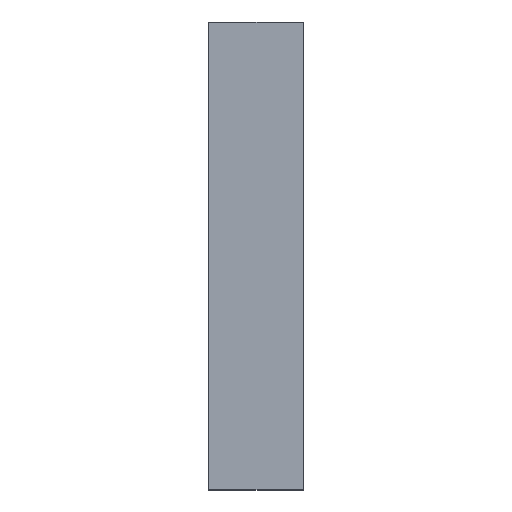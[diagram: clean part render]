
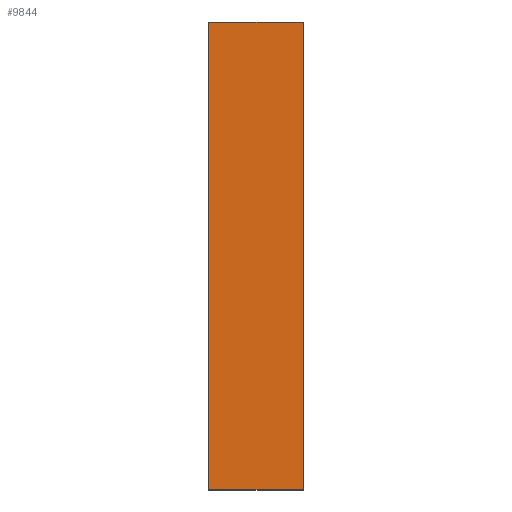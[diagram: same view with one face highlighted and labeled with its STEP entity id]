
A CAD part, left-side view. The second image highlights one B-rep face of the part: STEP entity #9844.
In plain terms, the highlighted planar face has unit normal (-1, 0, 0).
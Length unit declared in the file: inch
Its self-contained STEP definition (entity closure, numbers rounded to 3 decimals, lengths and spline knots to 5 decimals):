
#91 = LINE ( 'NONE', #8365, #2423 ) ;
#1131 = ORIENTED_EDGE ( 'NONE', *, *, #15889, .T. ) ;
#2423 = VECTOR ( 'NONE', #22656, 39.37008 ) ;
#3686 = EDGE_CURVE ( 'NONE', #24358, #7810, #91, .T. ) ;
#4269 = CARTESIAN_POINT ( 'NONE',  ( -28.17225, 3.1, -7.67225 ) ) ;
#6797 = VECTOR ( 'NONE', #24999, 39.37008 ) ;
#7810 = VERTEX_POINT ( 'NONE', #11528 ) ;
#8068 = AXIS2_PLACEMENT_3D ( 'NONE', #23981, #26119, #19835 ) ;
#8365 = CARTESIAN_POINT ( 'NONE',  ( -28.17225, 61.99653, -7.67225 ) ) ;
#8504 = DIRECTION ( 'NONE',  ( 0., 0., 1. ) ) ;
#8542 = VECTOR ( 'NONE', #20433, 39.37008 ) ;
#8709 = CARTESIAN_POINT ( 'NONE',  ( -28.17225, 61.99653, 7.67225 ) ) ;
#9682 = FACE_OUTER_BOUND ( 'NONE', #25191, .T. ) ;
#9844 = ADVANCED_FACE ( 'NONE', ( #9682 ), #11817, .F. ) ;
#10627 = LINE ( 'NONE', #18633, #14520 ) ;
#10693 = EDGE_CURVE ( 'NONE', #23367, #25891, #21391, .T. ) ;
#11059 = ORIENTED_EDGE ( 'NONE', *, *, #10693, .F. ) ;
#11528 = CARTESIAN_POINT ( 'NONE',  ( -28.17225, 0., -7.67225 ) ) ;
#11817 = PLANE ( 'NONE',  #8068 ) ;
#12141 = CARTESIAN_POINT ( 'NONE',  ( -28.17225, 0., 7.67225 ) ) ;
#13091 = ORIENTED_EDGE ( 'NONE', *, *, #17029, .T. ) ;
#14520 = VECTOR ( 'NONE', #8504, 39.37008 ) ;
#15245 = CARTESIAN_POINT ( 'NONE',  ( -28.17225, 3.1, 7.67225 ) ) ;
#15889 = EDGE_CURVE ( 'NONE', #23367, #24358, #16150, .T. ) ;
#16150 = LINE ( 'NONE', #18549, #8542 ) ;
#17029 = EDGE_CURVE ( 'NONE', #7810, #25891, #10627, .T. ) ;
#18549 = CARTESIAN_POINT ( 'NONE',  ( -28.17225, 3.1, -7.67225 ) ) ;
#18633 = CARTESIAN_POINT ( 'NONE',  ( -28.17225, 0., -7.67225 ) ) ;
#19835 = DIRECTION ( 'NONE',  ( 0., 0., -1. ) ) ;
#20433 = DIRECTION ( 'NONE',  ( 0., 0., -1. ) ) ;
#21391 = LINE ( 'NONE', #8709, #6797 ) ;
#22656 = DIRECTION ( 'NONE',  ( 0., -1., 0. ) ) ;
#23367 = VERTEX_POINT ( 'NONE', #15245 ) ;
#23981 = CARTESIAN_POINT ( 'NONE',  ( -28.17225, 61.99653, -7.67225 ) ) ;
#24358 = VERTEX_POINT ( 'NONE', #4269 ) ;
#24999 = DIRECTION ( 'NONE',  ( 0., -1., 0. ) ) ;
#25191 = EDGE_LOOP ( 'NONE', ( #11059, #1131, #25475, #13091 ) ) ;
#25475 = ORIENTED_EDGE ( 'NONE', *, *, #3686, .T. ) ;
#25891 = VERTEX_POINT ( 'NONE', #12141 ) ;
#26119 = DIRECTION ( 'NONE',  ( 1., 0., 0. ) ) ;
